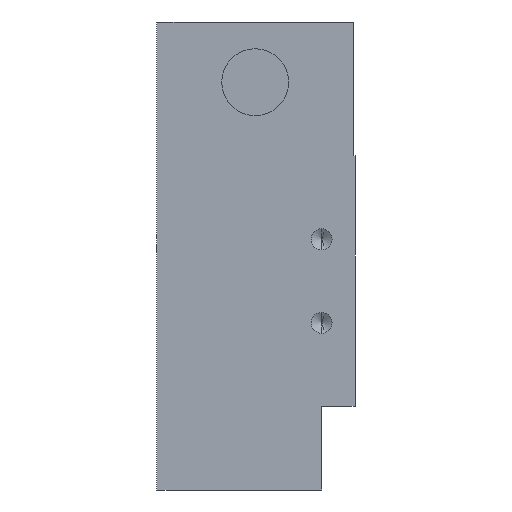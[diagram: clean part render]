
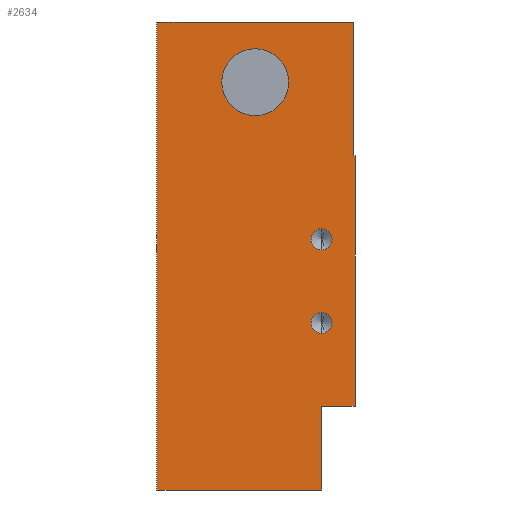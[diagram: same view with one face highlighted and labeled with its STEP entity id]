
A CAD part, left-side view. The second image highlights one B-rep face of the part: STEP entity #2634.
In plain terms, the highlighted planar face has unit normal (-1, 0, 0).
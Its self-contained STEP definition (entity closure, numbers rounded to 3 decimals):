
#26 = DIRECTION ( 'NONE',  ( 0., 0., 1. ) ) ;
#59 = DIRECTION ( 'NONE',  ( 0., -1., 0. ) ) ;
#64 = LINE ( 'NONE', #2950, #139 ) ;
#86 = VECTOR ( 'NONE', #2053, 1000. ) ;
#116 = AXIS2_PLACEMENT_3D ( 'NONE', #533, #2244, #26 ) ;
#139 = VECTOR ( 'NONE', #1459, 1000. ) ;
#141 = AXIS2_PLACEMENT_3D ( 'NONE', #2329, #657, #3086 ) ;
#180 = CIRCLE ( 'NONE', #2818, 4. ) ;
#188 = VERTEX_POINT ( 'NONE', #502 ) ;
#215 = CARTESIAN_POINT ( 'NONE',  ( -164., 4., 3.25 ) ) ;
#230 = VERTEX_POINT ( 'NONE', #2465 ) ;
#300 = DIRECTION ( 'NONE',  ( 0., 0., 1. ) ) ;
#301 = EDGE_LOOP ( 'NONE', ( #452, #3073 ) ) ;
#349 = CARTESIAN_POINT ( 'NONE',  ( -164., 0.2, 28. ) ) ;
#393 = DIRECTION ( 'NONE',  ( 0., 0., -1. ) ) ;
#425 = VERTEX_POINT ( 'NONE', #2433 ) ;
#426 = EDGE_CURVE ( 'NONE', #1593, #2863, #180, .T. ) ;
#452 = ORIENTED_EDGE ( 'NONE', *, *, #949, .F. ) ;
#453 = DIRECTION ( 'NONE',  ( 0., -1., 0. ) ) ;
#502 = CARTESIAN_POINT ( 'NONE',  ( -164., 0.2, 12. ) ) ;
#523 = VERTEX_POINT ( 'NONE', #3013 ) ;
#532 = DIRECTION ( 'NONE',  ( -1., 0., 0. ) ) ;
#533 = CARTESIAN_POINT ( 'NONE',  ( -164., 4., -8. ) ) ;
#544 = EDGE_CURVE ( 'NONE', #1227, #2185, #986, .T. ) ;
#591 = EDGE_LOOP ( 'NONE', ( #3054, #617, #2250, #2165, #1766, #3132, #3178, #812 ) ) ;
#617 = ORIENTED_EDGE ( 'NONE', *, *, #867, .T. ) ;
#631 = VECTOR ( 'NONE', #2792, 1000. ) ;
#648 = EDGE_CURVE ( 'NONE', #1524, #425, #1555, .T. ) ;
#657 = DIRECTION ( 'NONE',  ( -1., 0., 0. ) ) ;
#745 = LINE ( 'NONE', #349, #86 ) ;
#785 = FACE_OUTER_BOUND ( 'NONE', #591, .T. ) ;
#796 = VECTOR ( 'NONE', #2676, 1000. ) ;
#810 = EDGE_CURVE ( 'NONE', #3068, #2185, #2661, .T. ) ;
#812 = ORIENTED_EDGE ( 'NONE', *, *, #544, .T. ) ;
#858 = VERTEX_POINT ( 'NONE', #3161 ) ;
#867 = EDGE_CURVE ( 'NONE', #3068, #858, #1520, .T. ) ;
#949 = EDGE_CURVE ( 'NONE', #3198, #523, #1122, .T. ) ;
#962 = CARTESIAN_POINT ( 'NONE',  ( -164., 23.7, 28. ) ) ;
#986 = LINE ( 'NONE', #1306, #1975 ) ;
#998 = EDGE_CURVE ( 'NONE', #425, #188, #745, .T. ) ;
#1058 = VECTOR ( 'NONE', #2062, 1000. ) ;
#1078 = CARTESIAN_POINT ( 'NONE',  ( -164., 23.7, 28. ) ) ;
#1083 = CIRCLE ( 'NONE', #141, 1.25 ) ;
#1105 = EDGE_CURVE ( 'NONE', #1227, #1524, #1740, .T. ) ;
#1108 = DIRECTION ( 'NONE',  ( 1., 0., 0. ) ) ;
#1122 = CIRCLE ( 'NONE', #116, 1.25 ) ;
#1135 = DIRECTION ( 'NONE',  ( -1., 0., 0. ) ) ;
#1155 = DIRECTION ( 'NONE',  ( -1., 0., 0. ) ) ;
#1170 = PLANE ( 'NONE',  #1367 ) ;
#1176 = DIRECTION ( 'NONE',  ( 0., 0., -1. ) ) ;
#1180 = CARTESIAN_POINT ( 'NONE',  ( -164., 4., -18. ) ) ;
#1227 = VERTEX_POINT ( 'NONE', #1913 ) ;
#1228 = DIRECTION ( 'NONE',  ( 0., 0., -1. ) ) ;
#1258 = CARTESIAN_POINT ( 'NONE',  ( -164., 4., -28. ) ) ;
#1306 = CARTESIAN_POINT ( 'NONE',  ( -164., 23.7, -28. ) ) ;
#1350 = CIRCLE ( 'NONE', #3058, 1.25 ) ;
#1367 = AXIS2_PLACEMENT_3D ( 'NONE', #962, #1108, #1228 ) ;
#1425 = AXIS2_PLACEMENT_3D ( 'NONE', #2626, #1155, #2870 ) ;
#1457 = EDGE_CURVE ( 'NONE', #188, #1712, #64, .T. ) ;
#1459 = DIRECTION ( 'NONE',  ( 0., -1., 0. ) ) ;
#1489 = CARTESIAN_POINT ( 'NONE',  ( -164., 4., -6.75 ) ) ;
#1509 = EDGE_LOOP ( 'NONE', ( #2518, #2915 ) ) ;
#1518 = CARTESIAN_POINT ( 'NONE',  ( -164., 11.95, 24.8 ) ) ;
#1520 = LINE ( 'NONE', #1180, #2581 ) ;
#1524 = VERTEX_POINT ( 'NONE', #1749 ) ;
#1555 = LINE ( 'NONE', #1824, #631 ) ;
#1558 = CARTESIAN_POINT ( 'NONE',  ( -164., 11.95, 20.8 ) ) ;
#1585 = EDGE_CURVE ( 'NONE', #523, #3198, #1350, .T. ) ;
#1593 = VERTEX_POINT ( 'NONE', #1518 ) ;
#1649 = FACE_BOUND ( 'NONE', #301, .T. ) ;
#1712 = VERTEX_POINT ( 'NONE', #2050 ) ;
#1727 = AXIS2_PLACEMENT_3D ( 'NONE', #1558, #1135, #393 ) ;
#1735 = CIRCLE ( 'NONE', #1727, 4. ) ;
#1736 = CARTESIAN_POINT ( 'NONE',  ( -164., 4., -18. ) ) ;
#1740 = LINE ( 'NONE', #1078, #1058 ) ;
#1749 = CARTESIAN_POINT ( 'NONE',  ( -164., 23.7, 28. ) ) ;
#1765 = EDGE_CURVE ( 'NONE', #2863, #1593, #1735, .T. ) ;
#1766 = ORIENTED_EDGE ( 'NONE', *, *, #998, .F. ) ;
#1797 = EDGE_CURVE ( 'NONE', #2886, #230, #1083, .T. ) ;
#1824 = CARTESIAN_POINT ( 'NONE',  ( -164., 23.7, 28. ) ) ;
#1910 = DIRECTION ( 'NONE',  ( 0., 0., 1. ) ) ;
#1913 = CARTESIAN_POINT ( 'NONE',  ( -164., 23.7, -28. ) ) ;
#1954 = DIRECTION ( 'NONE',  ( -1., 0., 0. ) ) ;
#1956 = EDGE_LOOP ( 'NONE', ( #2282, #2601 ) ) ;
#1975 = VECTOR ( 'NONE', #59, 1000. ) ;
#2040 = LINE ( 'NONE', #2154, #2885 ) ;
#2050 = CARTESIAN_POINT ( 'NONE',  ( -164., 0., 12. ) ) ;
#2053 = DIRECTION ( 'NONE',  ( 0., 0., -1. ) ) ;
#2062 = DIRECTION ( 'NONE',  ( 0., 0., 1. ) ) ;
#2108 = EDGE_CURVE ( 'NONE', #858, #1712, #2040, .T. ) ;
#2115 = CARTESIAN_POINT ( 'NONE',  ( -164., 11.95, 16.8 ) ) ;
#2154 = CARTESIAN_POINT ( 'NONE',  ( -164., 0., 28. ) ) ;
#2165 = ORIENTED_EDGE ( 'NONE', *, *, #1457, .F. ) ;
#2185 = VERTEX_POINT ( 'NONE', #1258 ) ;
#2209 = CARTESIAN_POINT ( 'NONE',  ( -164., 4., -28. ) ) ;
#2244 = DIRECTION ( 'NONE',  ( -1., 0., 0. ) ) ;
#2250 = ORIENTED_EDGE ( 'NONE', *, *, #2108, .T. ) ;
#2282 = ORIENTED_EDGE ( 'NONE', *, *, #1797, .F. ) ;
#2329 = CARTESIAN_POINT ( 'NONE',  ( -164., 4., 2. ) ) ;
#2433 = CARTESIAN_POINT ( 'NONE',  ( -164., 0.2, 28. ) ) ;
#2465 = CARTESIAN_POINT ( 'NONE',  ( -164., 4., 0.75 ) ) ;
#2511 = CARTESIAN_POINT ( 'NONE',  ( -164., 4., -8. ) ) ;
#2518 = ORIENTED_EDGE ( 'NONE', *, *, #1765, .F. ) ;
#2581 = VECTOR ( 'NONE', #453, 1000. ) ;
#2601 = ORIENTED_EDGE ( 'NONE', *, *, #3167, .F. ) ;
#2607 = FACE_BOUND ( 'NONE', #1509, .T. ) ;
#2626 = CARTESIAN_POINT ( 'NONE',  ( -164., 4., 2. ) ) ;
#2634 = ADVANCED_FACE ( 'NONE', ( #2695, #1649, #2607, #785 ), #1170, .F. ) ;
#2661 = LINE ( 'NONE', #2209, #796 ) ;
#2676 = DIRECTION ( 'NONE',  ( 0., 0., -1. ) ) ;
#2695 = FACE_BOUND ( 'NONE', #1956, .T. ) ;
#2792 = DIRECTION ( 'NONE',  ( 0., -1., 0. ) ) ;
#2818 = AXIS2_PLACEMENT_3D ( 'NONE', #3158, #1954, #1176 ) ;
#2863 = VERTEX_POINT ( 'NONE', #2115 ) ;
#2870 = DIRECTION ( 'NONE',  ( 0., 0., 1. ) ) ;
#2885 = VECTOR ( 'NONE', #1910, 1000. ) ;
#2886 = VERTEX_POINT ( 'NONE', #215 ) ;
#2915 = ORIENTED_EDGE ( 'NONE', *, *, #426, .F. ) ;
#2950 = CARTESIAN_POINT ( 'NONE',  ( -164., 0.2, 12. ) ) ;
#3013 = CARTESIAN_POINT ( 'NONE',  ( -164., 4., -9.25 ) ) ;
#3054 = ORIENTED_EDGE ( 'NONE', *, *, #810, .F. ) ;
#3058 = AXIS2_PLACEMENT_3D ( 'NONE', #2511, #532, #300 ) ;
#3068 = VERTEX_POINT ( 'NONE', #1736 ) ;
#3073 = ORIENTED_EDGE ( 'NONE', *, *, #1585, .F. ) ;
#3086 = DIRECTION ( 'NONE',  ( 0., 0., 1. ) ) ;
#3132 = ORIENTED_EDGE ( 'NONE', *, *, #648, .F. ) ;
#3147 = CIRCLE ( 'NONE', #1425, 1.25 ) ;
#3158 = CARTESIAN_POINT ( 'NONE',  ( -164., 11.95, 20.8 ) ) ;
#3161 = CARTESIAN_POINT ( 'NONE',  ( -164., 0., -18. ) ) ;
#3167 = EDGE_CURVE ( 'NONE', #230, #2886, #3147, .T. ) ;
#3178 = ORIENTED_EDGE ( 'NONE', *, *, #1105, .F. ) ;
#3198 = VERTEX_POINT ( 'NONE', #1489 ) ;
